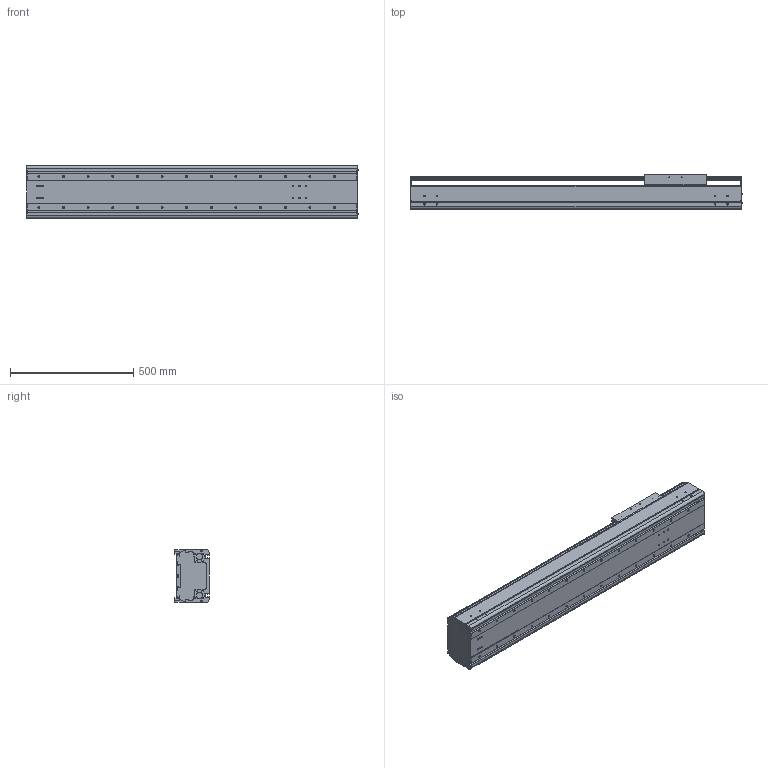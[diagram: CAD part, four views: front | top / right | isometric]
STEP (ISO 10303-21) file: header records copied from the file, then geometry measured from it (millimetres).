
FILE_DESCRIPTION((''),'2;1');
FILE_NAME('BE60G-ST-M_B-90_IGS_PRT','2017-06-18T',(' '),(''),'PRO/ENGINEER BY PARAMETRIC TECHNOLOGY CORPORATION, 2015030','PRO/ENGINEER BY PARAMETRIC TECHNOLOGY CORPORATION, 2015030','');
FILE_SCHEMA(('CONFIG_CONTROL_DESIGN'));
Length unit declared in the file: millimetre
Products named in the file (1): BE60G-ST-M_B-90_IGS_PRT
Bounding box: 1347.4 x 140 x 214 mm (x, y, z)
Volume: 10839602.4 mm3; surface area: 2889484.5 mm2
Topology: 2 solids, 136 shells, 1534 faces, 4272 edges, 2804 vertices
Faces by surface type: cylinder 776, plane 606, cone 104, sphere 24, torus 24
Entity records: 51042 total; most frequent: CARTESIAN_POINT 11436, DIRECTION 8334, ORIENTED_EDGE 7816, EDGE_CURVE 4172, AXIS2_PLACEMENT_3D 3095, VERTEX_POINT 2804, VECTOR 2144, LINE 2144
